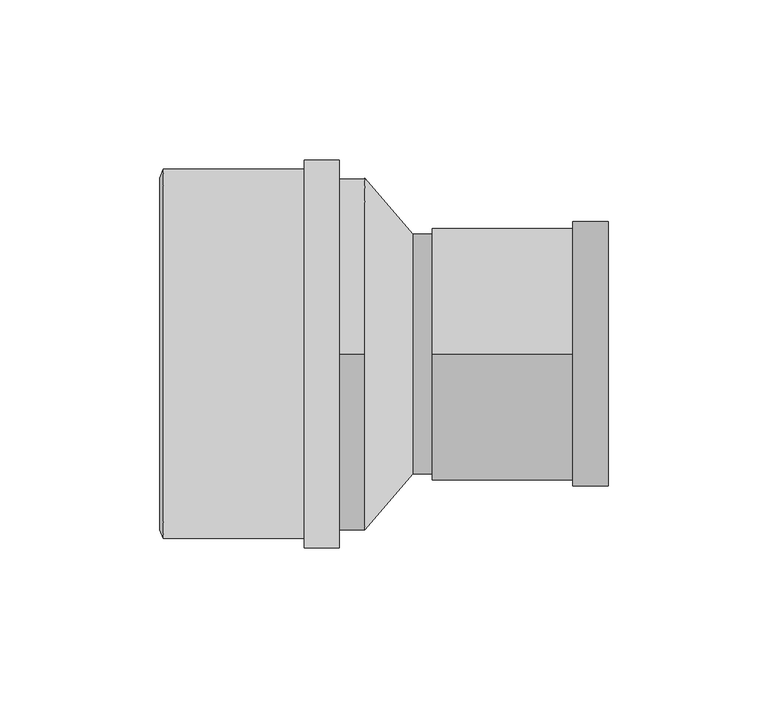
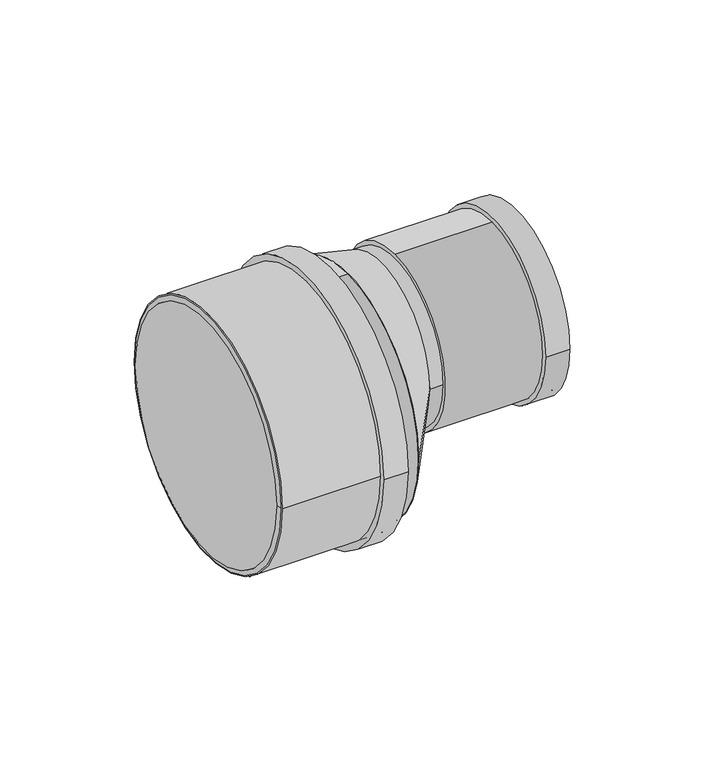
"""IFC4 building model written with IfcOpenShell, lengths in millimetres: pipe fitting geometry, Superdrain HTR-Reducer : Superdrain HTR-Reducer."""

from ifc_helpers import new_model, si_unit, point, frame, frame_2d, origin, origin_2d, place, context, project, spatial, polyline, circle_curve, trimmed, segment, composite_curve, outline, extrude, source, transform, mapped, element, save
from ifc_brep_helpers import plane_surface, revolved_surface, spline_surface, advanced_brep


def pipe_fitting_e3336ed4(model_context):
    return source(origin(), model_context, "Body", "SolidModel", [
        extrude(outline(composite_curve([segment(trimmed(circle_curve(frame_2d((0.0, 0.1450234)), 57.75), [point((57.75, 0.1450234))], [point((-57.75, 0.1450234))], False, "CARTESIAN"), True, "CONTINUOUS"), segment(trimmed(circle_curve(frame_2d((0.0, 0.1450234)), 57.75), [point((-57.75, 0.1450234))], [point((57.75, 0.1450234))], False, "CARTESIAN"), True, "CONTINUOUS")], self_intersect=False), holes=[composite_curve([segment(trimmed(circle_curve(frame_2d((0.0, 0.1450234)), 55.0), [point((55.0, 0.1450234))], [point((-55.0, 0.1450234))], True, "CARTESIAN"), True, "CONTINUOUS"), segment(trimmed(circle_curve(frame_2d((0.0, 0.1450234)), 55.0), [point((-55.0, 0.1450234))], [point((55.0, 0.1450234))], True, "CARTESIAN"), True, "CONTINUOUS")], self_intersect=False)]), frame((-63.0, 0.0, 0.0), z_axis=(1.0, 0.0, 0.0), x_axis=(0.0, 1.0, 0.0)), (0.0, 0.0, 1.0), 55.0),
        extrude(outline(composite_curve([segment(trimmed(circle_curve(frame_2d((0.0, 0.1450234)), 60.6375), [point((60.6375, 0.1450234))], [point((-60.6375, 0.1450234))], False, "CARTESIAN"), True, "CONTINUOUS"), segment(trimmed(circle_curve(frame_2d((0.0, 0.1450234)), 60.6375), [point((-60.6375, 0.1450234))], [point((60.6375, 0.1450234))], False, "CARTESIAN"), True, "CONTINUOUS")], self_intersect=False), holes=[composite_curve([segment(trimmed(circle_curve(frame_2d((0.0, 0.1450234)), 55.0), [point((55.0, 0.1450234))], [point((-55.0, 0.1450234))], True, "CARTESIAN"), True, "CONTINUOUS"), segment(trimmed(circle_curve(frame_2d((0.0, 0.1450234)), 55.0), [point((-55.0, 0.1450234))], [point((55.0, 0.1450234))], True, "CARTESIAN"), True, "CONTINUOUS")], self_intersect=False)]), frame((-19.0, 0.0, 0.0), z_axis=(1.0, 0.0, 0.0), x_axis=(0.0, 1.0, 0.0)), (0.0, 0.0, 1.0), 11.0),
        advanced_brep(
        [(-64.0, 55.0, 0.1450234), (-64.0, -55.0, 0.1450234), (-63.0, 57.75, 0.1450234), (-63.0, -57.75, 0.1450234)],
        [
            (0, 1, circle_curve(frame((-64.0, 0.0, 0.1450234), z_axis=(-1.0, 0.0, 0.0), x_axis=(0.0, 1.0, 0.0)), 55.0)),
            (1, 0, circle_curve(frame((-64.0, 0.0, 0.1450234), z_axis=(-1.0, 0.0, 0.0), x_axis=(0.0, -1.0, 0.0)), 55.0)),
            (2, 3, circle_curve(frame((-63.0, 0.0, 0.1450234), z_axis=(1.0, 0.0, 0.0), x_axis=(0.0, -1.0, 0.0)), 57.75)),
            (3, 2, circle_curve(frame((-63.0, 0.0, 0.1450234), z_axis=(1.0, 0.0, 0.0), x_axis=(0.0, 1.0, 0.0)), 57.75)),
            (3, 1),
            (0, 2),
        ],
        [
            plane_surface(frame((-64.0, 0.0, 0.1450234), z_axis=(-1.0, 0.0, 0.0), x_axis=(0.0, 0.0, -1.0))),
            plane_surface(frame((-63.0, 0.0, 0.1450234), z_axis=(1.0, 0.0, 0.0), x_axis=(0.0, 0.0, -1.0))),
            revolved_surface(polyline([(-64.0, 55.0, 0.1450234), (-63.0, 57.75, 0.1450234)]), (-84.0, 0.0, 0.1450234), (1.0, 0.0, 0.0)),
            revolved_surface(polyline([(-64.0, -55.0, 0.1450234), (-63.0, -57.75, 0.1450234)]), (-84.0, 0.0, 0.1450234), (1.0, 0.0, 0.0)),
        ],
        [
            (0, [[1, 2]]),
            (1, [[3, 4]]),
            (2, [[-4, 5, -1, 6]]),
            (3, [[-3, -6, -2, -5]]),
        ],
    ),
        advanced_brep(
        [(15.0, -37.5, 17.5), (15.0, 37.5, 17.5), (0.0, -55.0, 0.0), (0.0, 55.0, 0.0)],
        [
            (0, 1, circle_curve(frame((15.0, 0.0, 17.5), z_axis=(1.0, 0.0, 0.0), x_axis=(0.0, 1.0, 0.0)), 37.5)),
            (1, 0, circle_curve(frame((15.0, 0.0, 17.5), z_axis=(1.0, 0.0, 0.0), x_axis=(0.0, 1.0, 0.0)), 37.5)),
            (2, 3, circle_curve(frame((0.0, 0.0, 0.0), z_axis=(-1.0, 0.0, 0.0), x_axis=(0.0, 1.0, 0.0)), 55.0)),
            (3, 2, circle_curve(frame((0.0, 0.0, 0.0), z_axis=(-1.0, 0.0, 0.0), x_axis=(0.0, 1.0, 0.0)), 55.0)),
            (3, 1),
            (0, 2),
        ],
        [
            plane_surface(frame((15.0, 0.0, 17.5), z_axis=(1.0, 0.0, 0.0), x_axis=(0.0, 0.0, -1.0))),
            plane_surface(frame((0.0, 0.0, 0.0), z_axis=(-1.0, 0.0, 0.0), x_axis=(0.0, 0.0, -1.0))),
            spline_surface(2, 1, [[(0.0, -55.0, 0.0), (15.0, -37.5, 17.5)], [(0.0, -55.0, -55.0), (15.0, -37.5, -20.0)], [(0.0, 0.0, -55.0), (15.0, 0.0, -20.0)], [(0.0, 55.0, -55.0), (15.0, 37.5, -20.0)], [(0.0, 55.0, 0.0), (15.0, 37.5, 17.5)]], [3, 2, 3], [2, 2], [0.0, 1.0, 2.0], [0.0, 1.0], weights=[[1.0, 1.0], [0.7071067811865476, 0.7071067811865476], [1.0, 1.0], [0.7071067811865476, 0.7071067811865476], [1.0, 1.0]]),
            spline_surface(2, 1, [[(0.0, 55.0, 0.0), (15.0, 37.5, 17.5)], [(0.0, 55.0, 55.0), (15.0, 37.5, 55.0)], [(0.0, 0.0, 55.0), (15.0, 0.0, 55.0)], [(0.0, -55.0, 55.0), (15.0, -37.5, 55.0)], [(0.0, -55.0, 0.0), (15.0, -37.5, 17.5)]], [3, 2, 3], [2, 2], [0.0, 1.0, 2.0], [0.0, 1.0], weights=[[1.0, 1.0], [0.7071067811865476, 0.7071067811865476], [1.0, 1.0], [0.7071067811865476, 0.7071067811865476], [1.0, 1.0]]),
        ],
        [
            (0, [[1, 2]]),
            (1, [[3, 4]]),
            (2, [[-4, 5, -1, 6]]),
            (3, [[-3, -6, -2, -5]]),
        ],
    ),
        extrude(outline(composite_curve([segment(trimmed(circle_curve(frame_2d((0.0, 17.5)), 37.5), [point((-37.5, 17.5))], [point((37.5, 17.5))], False, "CARTESIAN"), True, "CONTINUOUS"), segment(trimmed(circle_curve(frame_2d((0.0, 17.5)), 37.5), [point((37.5, 17.5))], [point((-37.5, 17.5))], False, "CARTESIAN"), True, "CONTINUOUS")], self_intersect=False)), frame((15.0, 0.0, 0.0), z_axis=(1.0, 0.0, 0.0), x_axis=(0.0, 1.0, 0.0)), (0.0, 0.0, 1.0), 6.0),
        extrude(outline(composite_curve([segment(trimmed(circle_curve(frame_2d((0.0, 17.5)), 41.34375), [point((-41.34375, 17.5))], [point((41.34375, 17.5))], False, "CARTESIAN"), True, "CONTINUOUS"), segment(trimmed(circle_curve(frame_2d((0.0, 17.5)), 41.34375), [point((41.34375, 17.5))], [point((-41.34375, 17.5))], False, "CARTESIAN"), True, "CONTINUOUS")], self_intersect=False), holes=[composite_curve([segment(trimmed(circle_curve(frame_2d((0.0, 17.5)), 37.5), [point((37.5, 17.5))], [point((-37.5, 17.5))], True, "CARTESIAN"), True, "CONTINUOUS"), segment(trimmed(circle_curve(frame_2d((0.0, 17.5)), 37.5), [point((-37.5, 17.5))], [point((37.5, 17.5))], True, "CARTESIAN"), True, "CONTINUOUS")], self_intersect=False)]), frame((65.0, 0.0, 0.0), z_axis=(1.0, 0.0, 0.0), x_axis=(0.0, 1.0, 0.0)), (0.0, 0.0, 1.0), 11.0),
        extrude(outline(composite_curve([segment(trimmed(circle_curve(frame_2d((0.0, 17.5)), 39.375), [point((0.0, 56.875))], [point((0.0, -21.875))], False, "CARTESIAN"), True, "CONTINUOUS"), segment(trimmed(circle_curve(frame_2d((0.0, 17.5)), 39.375), [point((0.0, -21.875))], [point((0.0, 56.875))], False, "CARTESIAN"), True, "CONTINUOUS")], self_intersect=False), holes=[composite_curve([segment(trimmed(circle_curve(frame_2d((0.0, 17.5)), 37.5), [point((37.5, 17.5))], [point((-37.5, 17.5))], True, "CARTESIAN"), True, "CONTINUOUS"), segment(trimmed(circle_curve(frame_2d((0.0, 17.5)), 37.5), [point((-37.5, 17.5))], [point((37.5, 17.5))], True, "CARTESIAN"), True, "CONTINUOUS")], self_intersect=False)]), frame((21.0, 0.0, 0.0), z_axis=(1.0, 0.0, 0.0), x_axis=(0.0, 1.0, 0.0)), (0.0, 0.0, 1.0), 55.0),
        extrude(outline(composite_curve([segment(trimmed(circle_curve(origin_2d(), 55.0), [point((0.0, 55.0))], [point((0.0, -55.0))], False, "CARTESIAN"), True, "CONTINUOUS"), segment(trimmed(circle_curve(origin_2d(), 55.0), [point((0.0, -55.0))], [point((0.0, 55.0))], False, "CARTESIAN"), True, "CONTINUOUS")], self_intersect=False)), frame((-63.0, 0.0, 0.0), z_axis=(1.0, 0.0, 0.0), x_axis=(0.0, 1.0, 0.0)), (0.0, 0.0, 1.0), 63.0),
    ])


if __name__ == "__main__":
    model = new_model("IFC4")
    model_context = context("Model", 3, world=origin())
    ifc_project = project(units=[si_unit("LENGTHUNIT", "METRE", prefix="MILLI")], contexts=[model_context])
    site = spatial("IfcSite", under=ifc_project)
    building = spatial("IfcBuilding", under=site)
    placement = place(None, origin())
    pipe_fitting_shape = pipe_fitting_e3336ed4(model_context)
    element("IfcPipeFitting", 1, ObjectType="Superdrain HTR-Reducer : Superdrain HTR-Reducer", at=placement, inside=building, context=model_context, shape_type="MappedRepresentation", body=[
        mapped(pipe_fitting_shape, transform((0.0, 0.0, 0.0), x_axis=(1.0, 0.0, 0.0), y_axis=(0.0, 1.0, 0.0), z_axis=(0.0, 0.0, 1.0))),
    ])
    save(model, "model.ifc")
